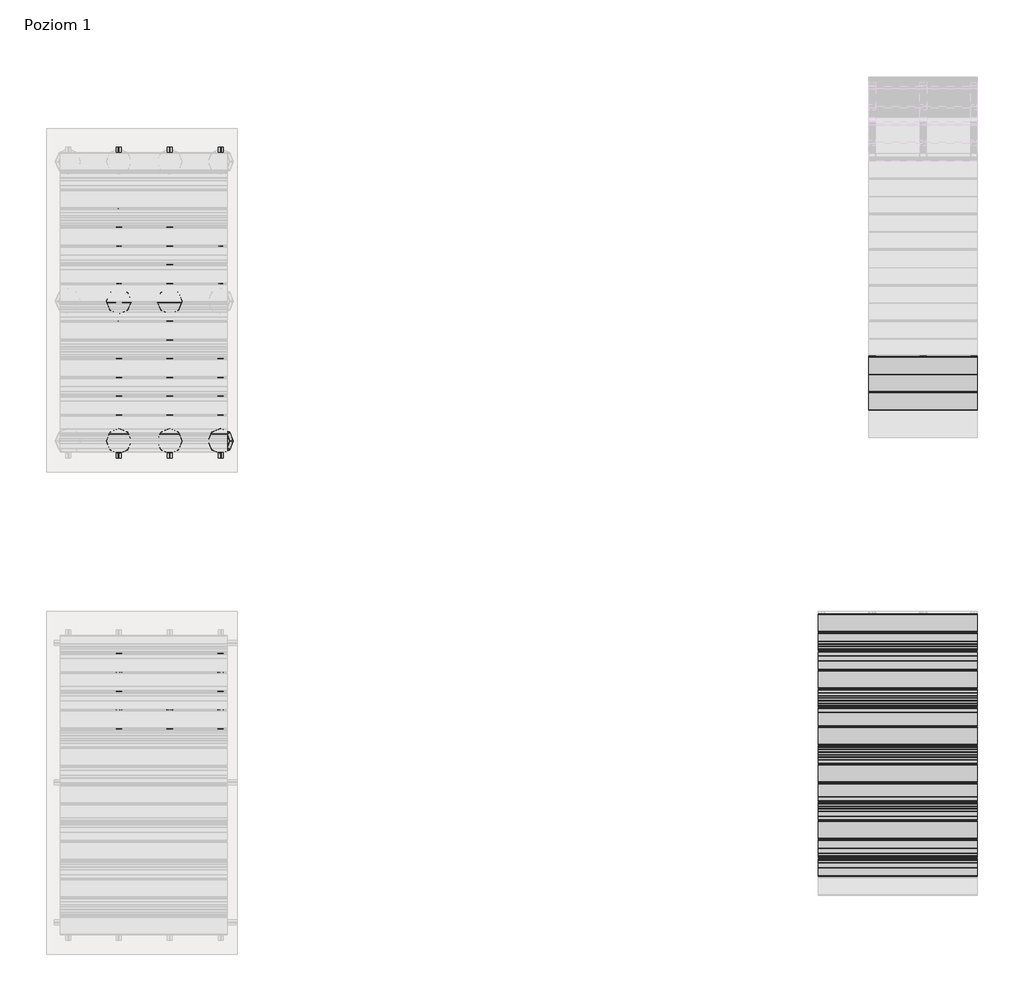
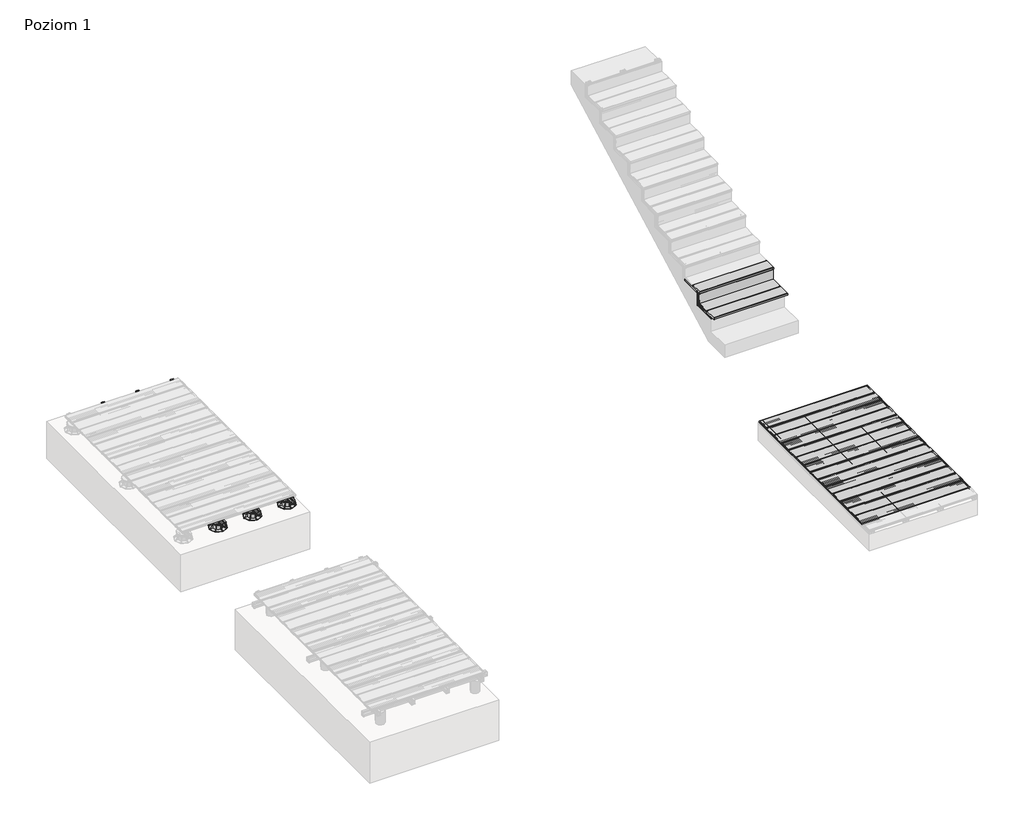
# One storey, part 2 of 3: 130 proxies.
"""IFC4 building model written with IfcOpenShell, lengths in millimetres."""

from ifc_helpers import new_model, si_unit, origin, place, context, project, spatial, transform, mapped, element, save
from components import generic_models_f2eebd4b, generic_models_ad5caf77, generic_models_7d2dd9e2, generic_models_c380d8c5, generic_models_15976a7a, deska_ld14022_75c34203, deska_ld14022_deska_ld14022_10748b43, deska_ld14022_deska_ld14022_7ee519a8, deska_ld14022s_deska_ld14022s_40a74b43

model = new_model("IFC4")

# Units and contexts
model_context = context("Model", 3, world=origin())
ifc_project = project(units=[si_unit("LENGTHUNIT", "METRE", prefix="MILLI")], contexts=[model_context])

# Site, building, storey
site = spatial("IfcSite", under=ifc_project)
building = spatial("IfcBuilding", under=site)
storey = spatial("IfcBuildingStorey", under=building, Name="Poziom 1", Elevation=0.0)

# Proxies
placement = place(None, origin())
generic_models_shape = generic_models_f2eebd4b(model_context)
element("IfcBuildingElementProxy", 1, Name="Klips montażowy : Klips montażowy", ObjectType="Klips montażowy : Klips montażowy", at=placement, inside=storey, context=model_context, shape_type="MappedRepresentation", body=[
    mapped(generic_models_shape, transform((6564.4622151, -11830.4084894, 0.0), x_axis=(1.0, 0.0, 0.0), y_axis=(0.0, 1.0, 0.0), z_axis=(0.0, 0.0, 1.0))),
])
element("IfcBuildingElementProxy", 2, Name="Klips montażowy : Klips montażowy", ObjectType="Klips montażowy : Klips montażowy", at=placement, inside=storey, context=model_context, shape_type="MappedRepresentation", body=[
    mapped(generic_models_shape, transform((6564.4622151, -11978.5035336, 0.0), x_axis=(1.0, 0.0, 0.0), y_axis=(0.0, 1.0, 0.0), z_axis=(0.0, 0.0, 1.0))),
])
element("IfcBuildingElementProxy", 3, Name="Klips montażowy : Klips montażowy", ObjectType="Klips montażowy : Klips montażowy", at=placement, inside=storey, context=model_context, shape_type="MappedRepresentation", body=[
    mapped(generic_models_shape, transform((6968.640944, -10201.1205148, 26.9981097), x_axis=(1.0, 0.0, 0.0), y_axis=(0.0, 1.0, 0.0), z_axis=(0.0, 0.0, 1.0))),
])
element("IfcBuildingElementProxy", 4, Name="Klips montażowy : Klips montażowy", ObjectType="Klips montażowy : Klips montażowy", at=placement, inside=storey, context=model_context, shape_type="MappedRepresentation", body=[
    mapped(generic_models_shape, transform((6968.640944, -10349.8705148, 26.9981097), x_axis=(1.0, 0.0, 0.0), y_axis=(0.0, 1.0, 0.0), z_axis=(0.0, 0.0, 1.0))),
])
element("IfcBuildingElementProxy", 5, Name="Klips montażowy : Klips montażowy", ObjectType="Klips montażowy : Klips montażowy", at=placement, inside=storey, context=model_context, shape_type="MappedRepresentation", body=[
    mapped(generic_models_shape, transform((6968.640944, -10497.9655589, 26.9981097), x_axis=(1.0, 0.0, 0.0), y_axis=(0.0, 1.0, 0.0), z_axis=(0.0, 0.0, 1.0))),
])
element("IfcBuildingElementProxy", 6, Name="Klips montażowy : Klips montażowy", ObjectType="Klips montażowy : Klips montażowy", at=placement, inside=storey, context=model_context, shape_type="MappedRepresentation", body=[
    mapped(generic_models_shape, transform((6968.640944, -10646.0606031, 26.9981097), x_axis=(1.0, 0.0, 0.0), y_axis=(0.0, 1.0, 0.0), z_axis=(0.0, 0.0, 1.0))),
])
element("IfcBuildingElementProxy", 7, Name="Klips montażowy : Klips montażowy", ObjectType="Klips montażowy : Klips montażowy", at=placement, inside=storey, context=model_context, shape_type="MappedRepresentation", body=[
    mapped(generic_models_shape, transform((6968.640944, -10794.1556473, 26.9981097), x_axis=(1.0, 0.0, 0.0), y_axis=(0.0, 1.0, 0.0), z_axis=(0.0, 0.0, 1.0))),
])
element("IfcBuildingElementProxy", 8, Name="Klips montażowy : Klips montażowy", ObjectType="Klips montażowy : Klips montażowy", at=placement, inside=storey, context=model_context, shape_type="MappedRepresentation", body=[
    mapped(generic_models_shape, transform((6968.640944, -10942.2506914, 26.9981097), x_axis=(1.0, 0.0, 0.0), y_axis=(0.0, 1.0, 0.0), z_axis=(0.0, 0.0, 1.0))),
])
element("IfcBuildingElementProxy", 9, Name="Klips montażowy : Klips montażowy", ObjectType="Klips montażowy : Klips montażowy", at=placement, inside=storey, context=model_context, shape_type="MappedRepresentation", body=[
    mapped(generic_models_shape, transform((6968.640944, -11090.3457356, 26.9981097), x_axis=(1.0, 0.0, 0.0), y_axis=(0.0, 1.0, 0.0), z_axis=(0.0, 0.0, 1.0))),
])
element("IfcBuildingElementProxy", 10, Name="Klips montażowy : Klips montażowy", ObjectType="Klips montażowy : Klips montażowy", at=placement, inside=storey, context=model_context, shape_type="MappedRepresentation", body=[
    mapped(generic_models_shape, transform((6968.640944, -11238.4407798, 26.9981097), x_axis=(1.0, 0.0, 0.0), y_axis=(0.0, 1.0, 0.0), z_axis=(0.0, 0.0, 1.0))),
])
element("IfcBuildingElementProxy", 11, Name="Klips montażowy : Klips montażowy", ObjectType="Klips montażowy : Klips montażowy", at=placement, inside=storey, context=model_context, shape_type="MappedRepresentation", body=[
    mapped(generic_models_shape, transform((6968.640944, -11386.535824, 26.9981097), x_axis=(1.0, 0.0, 0.0), y_axis=(0.0, 1.0, 0.0), z_axis=(0.0, 0.0, 1.0))),
])
element("IfcBuildingElementProxy", 12, Name="Klips montażowy : Klips montażowy", ObjectType="Klips montażowy : Klips montażowy", at=placement, inside=storey, context=model_context, shape_type="MappedRepresentation", body=[
    mapped(generic_models_shape, transform((6968.640944, -11534.6308681, 26.9981097), x_axis=(1.0, 0.0, 0.0), y_axis=(0.0, 1.0, 0.0), z_axis=(0.0, 0.0, 1.0))),
])
element("IfcBuildingElementProxy", 13, Name="Klips montażowy : Klips montażowy", ObjectType="Klips montażowy : Klips montażowy", at=placement, inside=storey, context=model_context, shape_type="MappedRepresentation", body=[
    mapped(generic_models_shape, transform((6968.640944, -11682.7259123, 26.9981097), x_axis=(1.0, 0.0, 0.0), y_axis=(0.0, 1.0, 0.0), z_axis=(0.0, 0.0, 1.0))),
])
element("IfcBuildingElementProxy", 14, Name="Klips montażowy : Klips montażowy", ObjectType="Klips montażowy : Klips montażowy", at=placement, inside=storey, context=model_context, shape_type="MappedRepresentation", body=[
    mapped(generic_models_shape, transform((6968.640944, -11830.8209565, 26.9981097), x_axis=(1.0, 0.0, 0.0), y_axis=(0.0, 1.0, 0.0), z_axis=(0.0, 0.0, 1.0))),
])
element("IfcBuildingElementProxy", 15, Name="Klips montażowy : Klips montażowy", ObjectType="Klips montażowy : Klips montażowy", at=placement, inside=storey, context=model_context, shape_type="MappedRepresentation", body=[
    mapped(generic_models_shape, transform((6968.640944, -11978.9160006, 26.9981097), x_axis=(1.0, 0.0, 0.0), y_axis=(0.0, 1.0, 0.0), z_axis=(0.0, 0.0, 1.0))),
])
element("IfcBuildingElementProxy", 16, Name="Klips montażowy : Klips montażowy", ObjectType="Klips montażowy : Klips montażowy", at=placement, inside=storey, context=model_context, shape_type="MappedRepresentation", body=[
    mapped(generic_models_shape, transform((6568.640944, -10201.1205148, 26.9981097), x_axis=(1.0, 0.0, 0.0), y_axis=(0.0, 1.0, 0.0), z_axis=(0.0, 0.0, 1.0))),
])
element("IfcBuildingElementProxy", 17, Name="Klips montażowy : Klips montażowy", ObjectType="Klips montażowy : Klips montażowy", at=placement, inside=storey, context=model_context, shape_type="MappedRepresentation", body=[
    mapped(generic_models_shape, transform((6568.640944, -10349.8705148, 26.9981097), x_axis=(1.0, 0.0, 0.0), y_axis=(0.0, 1.0, 0.0), z_axis=(0.0, 0.0, 1.0))),
])
element("IfcBuildingElementProxy", 18, Name="Klips montażowy : Klips montażowy", ObjectType="Klips montażowy : Klips montażowy", at=placement, inside=storey, context=model_context, shape_type="MappedRepresentation", body=[
    mapped(generic_models_shape, transform((6568.640944, -10497.9655589, 26.9981097), x_axis=(1.0, 0.0, 0.0), y_axis=(0.0, 1.0, 0.0), z_axis=(0.0, 0.0, 1.0))),
])
element("IfcBuildingElementProxy", 19, Name="Klips montażowy : Klips montażowy", ObjectType="Klips montażowy : Klips montażowy", at=placement, inside=storey, context=model_context, shape_type="MappedRepresentation", body=[
    mapped(generic_models_shape, transform((6568.640944, -10646.0606031, 26.9981097), x_axis=(1.0, 0.0, 0.0), y_axis=(0.0, 1.0, 0.0), z_axis=(0.0, 0.0, 1.0))),
])
element("IfcBuildingElementProxy", 20, Name="Klips montażowy : Klips montażowy", ObjectType="Klips montażowy : Klips montażowy", at=placement, inside=storey, context=model_context, shape_type="MappedRepresentation", body=[
    mapped(generic_models_shape, transform((6568.640944, -10794.1556473, 26.9981097), x_axis=(1.0, 0.0, 0.0), y_axis=(0.0, 1.0, 0.0), z_axis=(0.0, 0.0, 1.0))),
])
element("IfcBuildingElementProxy", 21, Name="Klips montażowy : Klips montażowy", ObjectType="Klips montażowy : Klips montażowy", at=placement, inside=storey, context=model_context, shape_type="MappedRepresentation", body=[
    mapped(generic_models_shape, transform((6568.640944, -10942.2506914, 26.9981097), x_axis=(1.0, 0.0, 0.0), y_axis=(0.0, 1.0, 0.0), z_axis=(0.0, 0.0, 1.0))),
])
element("IfcBuildingElementProxy", 22, Name="Klips montażowy : Klips montażowy", ObjectType="Klips montażowy : Klips montażowy", at=placement, inside=storey, context=model_context, shape_type="MappedRepresentation", body=[
    mapped(generic_models_shape, transform((6568.640944, -11090.3457356, 26.9981097), x_axis=(1.0, 0.0, 0.0), y_axis=(0.0, 1.0, 0.0), z_axis=(0.0, 0.0, 1.0))),
])
element("IfcBuildingElementProxy", 23, Name="Klips montażowy : Klips montażowy", ObjectType="Klips montażowy : Klips montażowy", at=placement, inside=storey, context=model_context, shape_type="MappedRepresentation", body=[
    mapped(generic_models_shape, transform((6568.640944, -11238.4407798, 26.9981097), x_axis=(1.0, 0.0, 0.0), y_axis=(0.0, 1.0, 0.0), z_axis=(0.0, 0.0, 1.0))),
])
element("IfcBuildingElementProxy", 24, Name="Klips montażowy : Klips montażowy", ObjectType="Klips montażowy : Klips montażowy", at=placement, inside=storey, context=model_context, shape_type="MappedRepresentation", body=[
    mapped(generic_models_shape, transform((6568.640944, -11386.535824, 26.9981097), x_axis=(1.0, 0.0, 0.0), y_axis=(0.0, 1.0, 0.0), z_axis=(0.0, 0.0, 1.0))),
])
element("IfcBuildingElementProxy", 25, Name="Klips montażowy : Klips montażowy", ObjectType="Klips montażowy : Klips montażowy", at=placement, inside=storey, context=model_context, shape_type="MappedRepresentation", body=[
    mapped(generic_models_shape, transform((6568.640944, -11534.6308681, 26.9981097), x_axis=(1.0, 0.0, 0.0), y_axis=(0.0, 1.0, 0.0), z_axis=(0.0, 0.0, 1.0))),
])
element("IfcBuildingElementProxy", 26, Name="Klips montażowy : Klips montażowy", ObjectType="Klips montażowy : Klips montażowy", at=placement, inside=storey, context=model_context, shape_type="MappedRepresentation", body=[
    mapped(generic_models_shape, transform((6568.640944, -11682.7259123, 26.9981097), x_axis=(1.0, 0.0, 0.0), y_axis=(0.0, 1.0, 0.0), z_axis=(0.0, 0.0, 1.0))),
])
element("IfcBuildingElementProxy", 27, Name="Klips montażowy : Klips montażowy", ObjectType="Klips montażowy : Klips montażowy", at=placement, inside=storey, context=model_context, shape_type="MappedRepresentation", body=[
    mapped(generic_models_shape, transform((6568.640944, -11830.8209565, 26.9981097), x_axis=(1.0, 0.0, 0.0), y_axis=(0.0, 1.0, 0.0), z_axis=(0.0, 0.0, 1.0))),
])
element("IfcBuildingElementProxy", 28, Name="Klips montażowy : Klips montażowy", ObjectType="Klips montażowy : Klips montażowy", at=placement, inside=storey, context=model_context, shape_type="MappedRepresentation", body=[
    mapped(generic_models_shape, transform((6568.640944, -11978.9160006, 26.9981097), x_axis=(1.0, 0.0, 0.0), y_axis=(0.0, 1.0, 0.0), z_axis=(0.0, 0.0, 1.0))),
])
element("IfcBuildingElementProxy", 29, Name="Klips montażowy : Klips montażowy", ObjectType="Klips montażowy : Klips montażowy", at=placement, inside=storey, context=model_context, shape_type="MappedRepresentation", body=[
    mapped(generic_models_shape, transform((6168.640944, -10201.1205148, 26.9981097), x_axis=(1.0, 0.0, 0.0), y_axis=(0.0, 1.0, 0.0), z_axis=(0.0, 0.0, 1.0))),
])
element("IfcBuildingElementProxy", 30, Name="Klips montażowy : Klips montażowy", ObjectType="Klips montażowy : Klips montażowy", at=placement, inside=storey, context=model_context, shape_type="MappedRepresentation", body=[
    mapped(generic_models_shape, transform((6168.640944, -10349.8705148, 26.9981097), x_axis=(1.0, 0.0, 0.0), y_axis=(0.0, 1.0, 0.0), z_axis=(0.0, 0.0, 1.0))),
])
element("IfcBuildingElementProxy", 31, Name="Klips montażowy : Klips montażowy", ObjectType="Klips montażowy : Klips montażowy", at=placement, inside=storey, context=model_context, shape_type="MappedRepresentation", body=[
    mapped(generic_models_shape, transform((6168.640944, -10497.9655589, 26.9981097), x_axis=(1.0, 0.0, 0.0), y_axis=(0.0, 1.0, 0.0), z_axis=(0.0, 0.0, 1.0))),
])
element("IfcBuildingElementProxy", 32, Name="Klips montażowy : Klips montażowy", ObjectType="Klips montażowy : Klips montażowy", at=placement, inside=storey, context=model_context, shape_type="MappedRepresentation", body=[
    mapped(generic_models_shape, transform((6168.640944, -10646.0606031, 26.9981097), x_axis=(1.0, 0.0, 0.0), y_axis=(0.0, 1.0, 0.0), z_axis=(0.0, 0.0, 1.0))),
])
element("IfcBuildingElementProxy", 33, Name="Klips montażowy : Klips montażowy", ObjectType="Klips montażowy : Klips montażowy", at=placement, inside=storey, context=model_context, shape_type="MappedRepresentation", body=[
    mapped(generic_models_shape, transform((6168.640944, -10794.1556473, 26.9981097), x_axis=(1.0, 0.0, 0.0), y_axis=(0.0, 1.0, 0.0), z_axis=(0.0, 0.0, 1.0))),
])
element("IfcBuildingElementProxy", 34, Name="Klips montażowy : Klips montażowy", ObjectType="Klips montażowy : Klips montażowy", at=placement, inside=storey, context=model_context, shape_type="MappedRepresentation", body=[
    mapped(generic_models_shape, transform((6168.640944, -10942.2506914, 26.9981097), x_axis=(1.0, 0.0, 0.0), y_axis=(0.0, 1.0, 0.0), z_axis=(0.0, 0.0, 1.0))),
])
element("IfcBuildingElementProxy", 35, Name="Klips montażowy : Klips montażowy", ObjectType="Klips montażowy : Klips montażowy", at=placement, inside=storey, context=model_context, shape_type="MappedRepresentation", body=[
    mapped(generic_models_shape, transform((6168.640944, -11090.3457356, 26.9981097), x_axis=(1.0, 0.0, 0.0), y_axis=(0.0, 1.0, 0.0), z_axis=(0.0, 0.0, 1.0))),
])
element("IfcBuildingElementProxy", 36, Name="Klips montażowy : Klips montażowy", ObjectType="Klips montażowy : Klips montażowy", at=placement, inside=storey, context=model_context, shape_type="MappedRepresentation", body=[
    mapped(generic_models_shape, transform((6168.640944, -11238.4407798, 26.9981097), x_axis=(1.0, 0.0, 0.0), y_axis=(0.0, 1.0, 0.0), z_axis=(0.0, 0.0, 1.0))),
])
element("IfcBuildingElementProxy", 37, Name="Klips montażowy : Klips montażowy", ObjectType="Klips montażowy : Klips montażowy", at=placement, inside=storey, context=model_context, shape_type="MappedRepresentation", body=[
    mapped(generic_models_shape, transform((6168.640944, -11386.535824, 26.9981097), x_axis=(1.0, 0.0, 0.0), y_axis=(0.0, 1.0, 0.0), z_axis=(0.0, 0.0, 1.0))),
])
element("IfcBuildingElementProxy", 38, Name="Klips montażowy : Klips montażowy", ObjectType="Klips montażowy : Klips montażowy", at=placement, inside=storey, context=model_context, shape_type="MappedRepresentation", body=[
    mapped(generic_models_shape, transform((6168.640944, -11534.6308681, 26.9981097), x_axis=(1.0, 0.0, 0.0), y_axis=(0.0, 1.0, 0.0), z_axis=(0.0, 0.0, 1.0))),
])
element("IfcBuildingElementProxy", 39, Name="Klips montażowy : Klips montażowy", ObjectType="Klips montażowy : Klips montażowy", at=placement, inside=storey, context=model_context, shape_type="MappedRepresentation", body=[
    mapped(generic_models_shape, transform((6168.640944, -11682.7259123, 26.9981097), x_axis=(1.0, 0.0, 0.0), y_axis=(0.0, 1.0, 0.0), z_axis=(0.0, 0.0, 1.0))),
])
element("IfcBuildingElementProxy", 40, Name="Klips montażowy : Klips montażowy", ObjectType="Klips montażowy : Klips montażowy", at=placement, inside=storey, context=model_context, shape_type="MappedRepresentation", body=[
    mapped(generic_models_shape, transform((6168.640944, -11830.8209565, 26.9981097), x_axis=(1.0, 0.0, 0.0), y_axis=(0.0, 1.0, 0.0), z_axis=(0.0, 0.0, 1.0))),
])
element("IfcBuildingElementProxy", 41, Name="Klips montażowy : Klips montażowy", ObjectType="Klips montażowy : Klips montażowy", at=placement, inside=storey, context=model_context, shape_type="MappedRepresentation", body=[
    mapped(generic_models_shape, transform((6168.640944, -11978.9160006, 26.9981097), x_axis=(1.0, 0.0, 0.0), y_axis=(0.0, 1.0, 0.0), z_axis=(0.0, 0.0, 1.0))),
])
element("IfcBuildingElementProxy", 42, Name="Klips montażowy : Klips montażowy", ObjectType="Klips montażowy : Klips montażowy", at=placement, inside=storey, context=model_context, shape_type="MappedRepresentation", body=[
    mapped(generic_models_shape, transform((5768.640944, -10201.1205148, 26.9981097), x_axis=(1.0, 0.0, 0.0), y_axis=(0.0, 1.0, 0.0), z_axis=(0.0, 0.0, 1.0))),
])
element("IfcBuildingElementProxy", 43, Name="Klips montażowy : Klips montażowy", ObjectType="Klips montażowy : Klips montażowy", at=placement, inside=storey, context=model_context, shape_type="MappedRepresentation", body=[
    mapped(generic_models_shape, transform((5768.640944, -10349.8705148, 26.9981097), x_axis=(1.0, 0.0, 0.0), y_axis=(0.0, 1.0, 0.0), z_axis=(0.0, 0.0, 1.0))),
])
element("IfcBuildingElementProxy", 44, Name="Klips montażowy : Klips montażowy", ObjectType="Klips montażowy : Klips montażowy", at=placement, inside=storey, context=model_context, shape_type="MappedRepresentation", body=[
    mapped(generic_models_shape, transform((5768.640944, -10497.9655589, 26.9981097), x_axis=(1.0, 0.0, 0.0), y_axis=(0.0, 1.0, 0.0), z_axis=(0.0, 0.0, 1.0))),
])
element("IfcBuildingElementProxy", 45, Name="Klips montażowy : Klips montażowy", ObjectType="Klips montażowy : Klips montażowy", at=placement, inside=storey, context=model_context, shape_type="MappedRepresentation", body=[
    mapped(generic_models_shape, transform((5768.640944, -10646.0606031, 26.9981097), x_axis=(1.0, 0.0, 0.0), y_axis=(0.0, 1.0, 0.0), z_axis=(0.0, 0.0, 1.0))),
])
element("IfcBuildingElementProxy", 46, Name="Klips montażowy : Klips montażowy", ObjectType="Klips montażowy : Klips montażowy", at=placement, inside=storey, context=model_context, shape_type="MappedRepresentation", body=[
    mapped(generic_models_shape, transform((5768.640944, -10794.1556473, 26.9981097), x_axis=(1.0, 0.0, 0.0), y_axis=(0.0, 1.0, 0.0), z_axis=(0.0, 0.0, 1.0))),
])
element("IfcBuildingElementProxy", 47, Name="Klips montażowy : Klips montażowy", ObjectType="Klips montażowy : Klips montażowy", at=placement, inside=storey, context=model_context, shape_type="MappedRepresentation", body=[
    mapped(generic_models_shape, transform((5768.640944, -10942.2506914, 26.9981097), x_axis=(1.0, 0.0, 0.0), y_axis=(0.0, 1.0, 0.0), z_axis=(0.0, 0.0, 1.0))),
])
element("IfcBuildingElementProxy", 48, Name="Klips montażowy : Klips montażowy", ObjectType="Klips montażowy : Klips montażowy", at=placement, inside=storey, context=model_context, shape_type="MappedRepresentation", body=[
    mapped(generic_models_shape, transform((5768.640944, -11090.3457356, 26.9981097), x_axis=(1.0, 0.0, 0.0), y_axis=(0.0, 1.0, 0.0), z_axis=(0.0, 0.0, 1.0))),
])
element("IfcBuildingElementProxy", 49, Name="Klips montażowy : Klips montażowy", ObjectType="Klips montażowy : Klips montażowy", at=placement, inside=storey, context=model_context, shape_type="MappedRepresentation", body=[
    mapped(generic_models_shape, transform((5768.640944, -11238.4407798, 26.9981097), x_axis=(1.0, 0.0, 0.0), y_axis=(0.0, 1.0, 0.0), z_axis=(0.0, 0.0, 1.0))),
])
element("IfcBuildingElementProxy", 50, Name="Klips montażowy : Klips montażowy", ObjectType="Klips montażowy : Klips montażowy", at=placement, inside=storey, context=model_context, shape_type="MappedRepresentation", body=[
    mapped(generic_models_shape, transform((5768.640944, -11386.535824, 26.9981097), x_axis=(1.0, 0.0, 0.0), y_axis=(0.0, 1.0, 0.0), z_axis=(0.0, 0.0, 1.0))),
])
element("IfcBuildingElementProxy", 51, Name="Klips montażowy : Klips montażowy", ObjectType="Klips montażowy : Klips montażowy", at=placement, inside=storey, context=model_context, shape_type="MappedRepresentation", body=[
    mapped(generic_models_shape, transform((5768.640944, -11534.6308681, 26.9981097), x_axis=(1.0, 0.0, 0.0), y_axis=(0.0, 1.0, 0.0), z_axis=(0.0, 0.0, 1.0))),
])
element("IfcBuildingElementProxy", 52, Name="Klips montażowy : Klips montażowy", ObjectType="Klips montażowy : Klips montażowy", at=placement, inside=storey, context=model_context, shape_type="MappedRepresentation", body=[
    mapped(generic_models_shape, transform((5768.640944, -11682.7259123, 26.9981097), x_axis=(1.0, 0.0, 0.0), y_axis=(0.0, 1.0, 0.0), z_axis=(0.0, 0.0, 1.0))),
])
element("IfcBuildingElementProxy", 53, Name="Klips montażowy : Klips montażowy", ObjectType="Klips montażowy : Klips montażowy", at=placement, inside=storey, context=model_context, shape_type="MappedRepresentation", body=[
    mapped(generic_models_shape, transform((5768.640944, -11830.8209565, 26.9981097), x_axis=(1.0, 0.0, 0.0), y_axis=(0.0, 1.0, 0.0), z_axis=(0.0, 0.0, 1.0))),
])
element("IfcBuildingElementProxy", 54, Name="Klips montażowy : Klips montażowy", ObjectType="Klips montażowy : Klips montażowy", at=placement, inside=storey, context=model_context, shape_type="MappedRepresentation", body=[
    mapped(generic_models_shape, transform((5768.640944, -11978.9160006, 26.9981097), x_axis=(1.0, 0.0, 0.0), y_axis=(0.0, 1.0, 0.0), z_axis=(0.0, 0.0, 1.0))),
])
element("IfcBuildingElementProxy", 55, Name="Klips montażowy : Klips montażowy", ObjectType="Klips montażowy : Klips montażowy", at=placement, inside=storey, context=model_context, shape_type="MappedRepresentation", body=[
    mapped(generic_models_shape, transform((1040.3000551, -10369.0163547, 100.0796601), x_axis=(1.0, 0.0, 0.0), y_axis=(0.0, 1.0, 0.0), z_axis=(0.0, 0.0, 1.0))),
])
element("IfcBuildingElementProxy", 56, Name="Klips montażowy : Klips montażowy", ObjectType="Klips montażowy : Klips montażowy", at=placement, inside=storey, context=model_context, shape_type="MappedRepresentation", body=[
    mapped(generic_models_shape, transform((1040.3000551, -10516.8311952, 100.0796601), x_axis=(1.0, 0.0, 0.0), y_axis=(0.0, 1.0, 0.0), z_axis=(0.0, 0.0, 1.0))),
])
element("IfcBuildingElementProxy", 57, Name="Klips montażowy : Klips montażowy", ObjectType="Klips montażowy : Klips montażowy", at=placement, inside=storey, context=model_context, shape_type="MappedRepresentation", body=[
    mapped(generic_models_shape, transform((1040.3000551, -10664.6460356, 100.0796601), x_axis=(1.0, 0.0, 0.0), y_axis=(0.0, 1.0, 0.0), z_axis=(0.0, 0.0, 1.0))),
])
element("IfcBuildingElementProxy", 58, Name="Klips montażowy : Klips montażowy", ObjectType="Klips montażowy : Klips montażowy", at=placement, inside=storey, context=model_context, shape_type="MappedRepresentation", body=[
    mapped(generic_models_shape, transform((1040.3000551, -10812.460876, 100.0796601), x_axis=(1.0, 0.0, 0.0), y_axis=(0.0, 1.0, 0.0), z_axis=(0.0, 0.0, 1.0))),
])
element("IfcBuildingElementProxy", 59, Name="Klips montażowy : Klips montażowy", ObjectType="Klips montażowy : Klips montażowy", at=placement, inside=storey, context=model_context, shape_type="MappedRepresentation", body=[
    mapped(generic_models_shape, transform((1040.3000551, -10960.2757164, 100.0796601), x_axis=(1.0, 0.0, 0.0), y_axis=(0.0, 1.0, 0.0), z_axis=(0.0, 0.0, 1.0))),
])
element("IfcBuildingElementProxy", 60, Name="Klips montażowy : Klips montażowy", ObjectType="Klips montażowy : Klips montażowy", at=placement, inside=storey, context=model_context, shape_type="MappedRepresentation", body=[
    mapped(generic_models_shape, transform((640.3000551, -10812.460876, 100.0796601), x_axis=(1.0, 0.0, 0.0), y_axis=(0.0, 1.0, 0.0), z_axis=(0.0, 0.0, 1.0))),
])
element("IfcBuildingElementProxy", 61, Name="Klips montażowy : Klips montażowy", ObjectType="Klips montażowy : Klips montażowy", at=placement, inside=storey, context=model_context, shape_type="MappedRepresentation", body=[
    mapped(generic_models_shape, transform((640.3000551, -10960.2757164, 100.0796601), x_axis=(1.0, 0.0, 0.0), y_axis=(0.0, 1.0, 0.0), z_axis=(0.0, 0.0, 1.0))),
])
element("IfcBuildingElementProxy", 62, Name="Klips montażowy : Klips montażowy", ObjectType="Klips montażowy : Klips montażowy", at=placement, inside=storey, context=model_context, shape_type="MappedRepresentation", body=[
    mapped(generic_models_shape, transform((240.2735017, -10369.0163547, 100.0796601), x_axis=(1.0, 0.0, 0.0), y_axis=(0.0, 1.0, 0.0), z_axis=(0.0, 0.0, 1.0))),
])
element("IfcBuildingElementProxy", 63, Name="Klips montażowy : Klips montażowy", ObjectType="Klips montażowy : Klips montażowy", at=placement, inside=storey, context=model_context, shape_type="MappedRepresentation", body=[
    mapped(generic_models_shape, transform((240.2735017, -10516.8311952, 100.0796601), x_axis=(1.0, 0.0, 0.0), y_axis=(0.0, 1.0, 0.0), z_axis=(0.0, 0.0, 1.0))),
])
element("IfcBuildingElementProxy", 64, Name="Klips montażowy : Klips montażowy", ObjectType="Klips montażowy : Klips montażowy", at=placement, inside=storey, context=model_context, shape_type="MappedRepresentation", body=[
    mapped(generic_models_shape, transform((240.2735017, -10664.6460356, 100.0796601), x_axis=(1.0, 0.0, 0.0), y_axis=(0.0, 1.0, 0.0), z_axis=(0.0, 0.0, 1.0))),
])
element("IfcBuildingElementProxy", 65, Name="Klips montażowy : Klips montażowy", ObjectType="Klips montażowy : Klips montażowy", at=placement, inside=storey, context=model_context, shape_type="MappedRepresentation", body=[
    mapped(generic_models_shape, transform((240.2735017, -10812.460876, 100.0796601), x_axis=(1.0, 0.0, 0.0), y_axis=(0.0, 1.0, 0.0), z_axis=(0.0, 0.0, 1.0))),
])
element("IfcBuildingElementProxy", 66, Name="Klips montażowy : Klips montażowy", ObjectType="Klips montażowy : Klips montażowy", at=placement, inside=storey, context=model_context, shape_type="MappedRepresentation", body=[
    mapped(generic_models_shape, transform((240.2735017, -10960.2757164, 100.0796601), x_axis=(1.0, 0.0, 0.0), y_axis=(0.0, 1.0, 0.0), z_axis=(0.0, 0.0, 1.0))),
])
element("IfcBuildingElementProxy", 67, Name="Klips montażowy : Klips montażowy", ObjectType="Klips montażowy : Klips montażowy", at=placement, inside=storey, context=model_context, shape_type="MappedRepresentation", body=[
    mapped(generic_models_shape, transform((1040.3000551, -8047.1647588, -19.9602499), x_axis=(1.0, 0.0, 0.0), y_axis=(0.0, 1.0, 0.0), z_axis=(0.0, 0.0, 1.0))),
])
element("IfcBuildingElementProxy", 68, Name="Klips montażowy : Klips montażowy", ObjectType="Klips montażowy : Klips montażowy", at=placement, inside=storey, context=model_context, shape_type="MappedRepresentation", body=[
    mapped(generic_models_shape, transform((1040.3000551, -8194.9795992, -19.9602499), x_axis=(1.0, 0.0, 0.0), y_axis=(0.0, 1.0, 0.0), z_axis=(0.0, 0.0, 1.0))),
])
element("IfcBuildingElementProxy", 69, Name="Klips montażowy : Klips montażowy", ObjectType="Klips montażowy : Klips montażowy", at=placement, inside=storey, context=model_context, shape_type="MappedRepresentation", body=[
    mapped(generic_models_shape, transform((1040.3000551, -8342.7944396, -19.9602499), x_axis=(1.0, 0.0, 0.0), y_axis=(0.0, 1.0, 0.0), z_axis=(0.0, 0.0, 1.0))),
])
element("IfcBuildingElementProxy", 70, Name="Klips montażowy : Klips montażowy", ObjectType="Klips montażowy : Klips montażowy", at=placement, inside=storey, context=model_context, shape_type="MappedRepresentation", body=[
    mapped(generic_models_shape, transform((1040.3000551, -8490.60928, -19.9602499), x_axis=(1.0, 0.0, 0.0), y_axis=(0.0, 1.0, 0.0), z_axis=(0.0, 0.0, 1.0))),
])
element("IfcBuildingElementProxy", 71, Name="Klips montażowy : Klips montażowy", ObjectType="Klips montażowy : Klips montażowy", at=placement, inside=storey, context=model_context, shape_type="MappedRepresentation", body=[
    mapped(generic_models_shape, transform((1040.3000551, -8638.4241205, -19.9602499), x_axis=(1.0, 0.0, 0.0), y_axis=(0.0, 1.0, 0.0), z_axis=(0.0, 0.0, 1.0))),
])
element("IfcBuildingElementProxy", 72, Name="Klips montażowy : Klips montażowy", ObjectType="Klips montażowy : Klips montażowy", at=placement, inside=storey, context=model_context, shape_type="MappedRepresentation", body=[
    mapped(generic_models_shape, transform((640.3000551, -7012.460876, -19.9602499), x_axis=(1.0, 0.0, 0.0), y_axis=(0.0, 1.0, 0.0), z_axis=(0.0, 0.0, 1.0))),
])
element("IfcBuildingElementProxy", 73, Name="Klips montażowy : Klips montażowy", ObjectType="Klips montażowy : Klips montażowy", at=placement, inside=storey, context=model_context, shape_type="MappedRepresentation", body=[
    mapped(generic_models_shape, transform((640.3000551, -7160.2757164, -19.9602499), x_axis=(1.0, 0.0, 0.0), y_axis=(0.0, 1.0, 0.0), z_axis=(0.0, 0.0, 1.0))),
])
element("IfcBuildingElementProxy", 74, Name="Klips montażowy : Klips montażowy", ObjectType="Klips montażowy : Klips montażowy", at=placement, inside=storey, context=model_context, shape_type="MappedRepresentation", body=[
    mapped(generic_models_shape, transform((640.3000551, -7308.0905568, -19.9602499), x_axis=(1.0, 0.0, 0.0), y_axis=(0.0, 1.0, 0.0), z_axis=(0.0, 0.0, 1.0))),
])
element("IfcBuildingElementProxy", 75, Name="Klips montażowy : Klips montażowy", ObjectType="Klips montażowy : Klips montażowy", at=placement, inside=storey, context=model_context, shape_type="MappedRepresentation", body=[
    mapped(generic_models_shape, transform((640.3000551, -7455.9053972, -19.9602499), x_axis=(1.0, 0.0, 0.0), y_axis=(0.0, 1.0, 0.0), z_axis=(0.0, 0.0, 1.0))),
])
element("IfcBuildingElementProxy", 76, Name="Klips montażowy : Klips montażowy", ObjectType="Klips montażowy : Klips montażowy", at=placement, inside=storey, context=model_context, shape_type="MappedRepresentation", body=[
    mapped(generic_models_shape, transform((640.3000551, -7603.7202376, -19.9602499), x_axis=(1.0, 0.0, 0.0), y_axis=(0.0, 1.0, 0.0), z_axis=(0.0, 0.0, 1.0))),
])
element("IfcBuildingElementProxy", 77, Name="Klips montażowy : Klips montażowy", ObjectType="Klips montażowy : Klips montażowy", at=placement, inside=storey, context=model_context, shape_type="MappedRepresentation", body=[
    mapped(generic_models_shape, transform((640.3000551, -7751.535078, -19.9602499), x_axis=(1.0, 0.0, 0.0), y_axis=(0.0, 1.0, 0.0), z_axis=(0.0, 0.0, 1.0))),
])
element("IfcBuildingElementProxy", 78, Name="Klips montażowy : Klips montażowy", ObjectType="Klips montażowy : Klips montażowy", at=placement, inside=storey, context=model_context, shape_type="MappedRepresentation", body=[
    mapped(generic_models_shape, transform((640.3000551, -7899.3499184, -19.9602499), x_axis=(1.0, 0.0, 0.0), y_axis=(0.0, 1.0, 0.0), z_axis=(0.0, 0.0, 1.0))),
])
element("IfcBuildingElementProxy", 79, Name="Klips montażowy : Klips montażowy", ObjectType="Klips montażowy : Klips montażowy", at=placement, inside=storey, context=model_context, shape_type="MappedRepresentation", body=[
    mapped(generic_models_shape, transform((640.3000551, -8047.1647588, -19.9602499), x_axis=(1.0, 0.0, 0.0), y_axis=(0.0, 1.0, 0.0), z_axis=(0.0, 0.0, 1.0))),
])
element("IfcBuildingElementProxy", 80, Name="Klips montażowy : Klips montażowy", ObjectType="Klips montażowy : Klips montażowy", at=placement, inside=storey, context=model_context, shape_type="MappedRepresentation", body=[
    mapped(generic_models_shape, transform((640.3000551, -8194.9795992, -19.9602499), x_axis=(1.0, 0.0, 0.0), y_axis=(0.0, 1.0, 0.0), z_axis=(0.0, 0.0, 1.0))),
])
element("IfcBuildingElementProxy", 81, Name="Klips montażowy : Klips montażowy", ObjectType="Klips montażowy : Klips montażowy", at=placement, inside=storey, context=model_context, shape_type="MappedRepresentation", body=[
    mapped(generic_models_shape, transform((640.3000551, -8342.7944396, -19.9602499), x_axis=(1.0, 0.0, 0.0), y_axis=(0.0, 1.0, 0.0), z_axis=(0.0, 0.0, 1.0))),
])
element("IfcBuildingElementProxy", 82, Name="Klips montażowy : Klips montażowy", ObjectType="Klips montażowy : Klips montażowy", at=placement, inside=storey, context=model_context, shape_type="MappedRepresentation", body=[
    mapped(generic_models_shape, transform((640.3000551, -8490.60928, -19.9602499), x_axis=(1.0, 0.0, 0.0), y_axis=(0.0, 1.0, 0.0), z_axis=(0.0, 0.0, 1.0))),
])
element("IfcBuildingElementProxy", 83, Name="Klips montażowy : Klips montażowy", ObjectType="Klips montażowy : Klips montażowy", at=placement, inside=storey, context=model_context, shape_type="MappedRepresentation", body=[
    mapped(generic_models_shape, transform((640.3000551, -8638.4241205, -19.9602499), x_axis=(1.0, 0.0, 0.0), y_axis=(0.0, 1.0, 0.0), z_axis=(0.0, 0.0, 1.0))),
])
element("IfcBuildingElementProxy", 84, Name="Klips montażowy : Klips montażowy", ObjectType="Klips montażowy : Klips montażowy", at=placement, inside=storey, context=model_context, shape_type="MappedRepresentation", body=[
    mapped(generic_models_shape, transform((240.2735017, -7012.460876, -19.9602499), x_axis=(1.0, 0.0, 0.0), y_axis=(0.0, 1.0, 0.0), z_axis=(0.0, 0.0, 1.0))),
])
element("IfcBuildingElementProxy", 85, Name="Klips montażowy : Klips montażowy", ObjectType="Klips montażowy : Klips montażowy", at=placement, inside=storey, context=model_context, shape_type="MappedRepresentation", body=[
    mapped(generic_models_shape, transform((240.2735017, -8047.1647588, -19.9602499), x_axis=(1.0, 0.0, 0.0), y_axis=(0.0, 1.0, 0.0), z_axis=(0.0, 0.0, 1.0))),
])
element("IfcBuildingElementProxy", 86, Name="Klips montażowy : Klips montażowy", ObjectType="Klips montażowy : Klips montażowy", at=placement, inside=storey, context=model_context, shape_type="MappedRepresentation", body=[
    mapped(generic_models_shape, transform((240.2735017, -8194.9795992, -19.9602499), x_axis=(1.0, 0.0, 0.0), y_axis=(0.0, 1.0, 0.0), z_axis=(0.0, 0.0, 1.0))),
])
element("IfcBuildingElementProxy", 87, Name="Klips montażowy : Klips montażowy", ObjectType="Klips montażowy : Klips montażowy", at=placement, inside=storey, context=model_context, shape_type="MappedRepresentation", body=[
    mapped(generic_models_shape, transform((240.2735017, -8342.7944396, -19.9602499), x_axis=(1.0, 0.0, 0.0), y_axis=(0.0, 1.0, 0.0), z_axis=(0.0, 0.0, 1.0))),
])
element("IfcBuildingElementProxy", 88, Name="Klips montażowy : Klips montażowy", ObjectType="Klips montażowy : Klips montażowy", at=placement, inside=storey, context=model_context, shape_type="MappedRepresentation", body=[
    mapped(generic_models_shape, transform((240.2735017, -8490.60928, -19.9602499), x_axis=(1.0, 0.0, 0.0), y_axis=(0.0, 1.0, 0.0), z_axis=(0.0, 0.0, 1.0))),
])
element("IfcBuildingElementProxy", 89, Name="Klips montażowy : Klips montażowy", ObjectType="Klips montażowy : Klips montażowy", at=placement, inside=storey, context=model_context, shape_type="MappedRepresentation", body=[
    mapped(generic_models_shape, transform((240.2735017, -8638.4241205, -19.9602499), x_axis=(1.0, 0.0, 0.0), y_axis=(0.0, 1.0, 0.0), z_axis=(0.0, 0.0, 1.0))),
])
element("IfcBuildingElementProxy", 90, Name="Klips montażowy : Klips montażowy", ObjectType="Klips montażowy : Klips montażowy", at=placement, inside=storey, context=model_context, shape_type="MappedRepresentation", body=[
    mapped(generic_models_shape, transform((6968.9741398, -8026.9888182, 330.0), x_axis=(1.0, 0.0, 0.0), y_axis=(0.0, 1.0, 0.0), z_axis=(0.0, 0.0, 1.0))),
])
element("IfcBuildingElementProxy", 91, Name="Klips montażowy : Klips montażowy", ObjectType="Klips montażowy : Klips montażowy", at=placement, inside=storey, context=model_context, shape_type="MappedRepresentation", body=[
    mapped(generic_models_shape, transform((6968.9741398, -8306.9888182, 180.0), x_axis=(1.0, 0.0, 0.0), y_axis=(0.0, 1.0, 0.0), z_axis=(0.0, 0.0, 1.0))),
])
element("IfcBuildingElementProxy", 92, Name="Klips montażowy : Klips montażowy", ObjectType="Klips montażowy : Klips montażowy", at=placement, inside=storey, context=model_context, shape_type="MappedRepresentation", body=[
    mapped(generic_models_shape, transform((6568.9741398, -8026.9888182, 330.0), x_axis=(1.0, 0.0, 0.0), y_axis=(0.0, 1.0, 0.0), z_axis=(0.0, 0.0, 1.0))),
])
element("IfcBuildingElementProxy", 93, Name="Klips montażowy : Klips montażowy", ObjectType="Klips montażowy : Klips montażowy", at=placement, inside=storey, context=model_context, shape_type="MappedRepresentation", body=[
    mapped(generic_models_shape, transform((6568.9741398, -8306.9888182, 180.0), x_axis=(1.0, 0.0, 0.0), y_axis=(0.0, 1.0, 0.0), z_axis=(0.0, 0.0, 1.0))),
])
element("IfcBuildingElementProxy", 94, Name="Klips montażowy : Klips montażowy", ObjectType="Klips montażowy : Klips montażowy", at=placement, inside=storey, context=model_context, shape_type="MappedRepresentation", body=[
    mapped(generic_models_shape, transform((6168.9741398, -8026.9888182, 330.0), x_axis=(1.0, 0.0, 0.0), y_axis=(0.0, 1.0, 0.0), z_axis=(0.0, 0.0, 1.0))),
])
element("IfcBuildingElementProxy", 95, Name="Klips montażowy : Klips montażowy", ObjectType="Klips montażowy : Klips montażowy", at=placement, inside=storey, context=model_context, shape_type="MappedRepresentation", body=[
    mapped(generic_models_shape, transform((6168.9741398, -8306.9888182, 180.0), x_axis=(1.0, 0.0, 0.0), y_axis=(0.0, 1.0, 0.0), z_axis=(0.0, 0.0, 1.0))),
])
generic_models_2_shape = generic_models_ad5caf77(model_context)
element("IfcBuildingElementProxy", 96, Name="Legar systemowy LD5030 : Legar systemowy LD5030", ObjectType="Legar systemowy LD5030 : Legar systemowy LD5030", at=placement, inside=storey, context=model_context, shape_type="MappedRepresentation", body=[
    mapped(generic_models_2_shape, transform((6541.7939993, -8109.2028197, 300.0), x_axis=(0.0, 1.0, 0.0), y_axis=(-1.0, 0.0, 0.0), z_axis=(0.0, 0.0, 1.0))),
])
element("IfcBuildingElementProxy", 97, Name="Legar systemowy LD5030 : Legar systemowy LD5030", ObjectType="Legar systemowy LD5030 : Legar systemowy LD5030", at=placement, inside=storey, context=model_context, shape_type="MappedRepresentation", body=[
    mapped(generic_models_2_shape, transform((6541.7939993, -8389.2028197, 150.0), x_axis=(0.0, 1.0, 0.0), y_axis=(-1.0, 0.0, 0.0), z_axis=(0.0, 0.0, 1.0))),
])
element("IfcBuildingElementProxy", 98, Name="Legar systemowy LD5030 : Legar systemowy LD5030", ObjectType="Legar systemowy LD5030 : Legar systemowy LD5030", at=placement, inside=storey, context=model_context, shape_type="MappedRepresentation", body=[
    mapped(generic_models_2_shape, transform((6941.7939993, -8109.2028197, 300.0), x_axis=(0.0, 1.0, 0.0), y_axis=(-1.0, 0.0, 0.0), z_axis=(0.0, 0.0, 1.0))),
])
element("IfcBuildingElementProxy", 99, Name="Legar systemowy LD5030 : Legar systemowy LD5030", ObjectType="Legar systemowy LD5030 : Legar systemowy LD5030", at=placement, inside=storey, context=model_context, shape_type="MappedRepresentation", body=[
    mapped(generic_models_2_shape, transform((6941.7939993, -8389.2028197, 150.0), x_axis=(0.0, 1.0, 0.0), y_axis=(-1.0, 0.0, 0.0), z_axis=(0.0, 0.0, 1.0))),
])
element("IfcBuildingElementProxy", 100, Name="Legar systemowy LD5030 : Legar systemowy LD5030", ObjectType="Legar systemowy LD5030 : Legar systemowy LD5030", at=placement, inside=storey, context=model_context, shape_type="MappedRepresentation", body=[
    mapped(generic_models_2_shape, transform((6141.7939993, -8109.2028197, 300.0), x_axis=(0.0, 1.0, 0.0), y_axis=(-1.0, 0.0, 0.0), z_axis=(0.0, 0.0, 1.0))),
])
element("IfcBuildingElementProxy", 101, Name="Legar systemowy LD5030 : Legar systemowy LD5030", ObjectType="Legar systemowy LD5030 : Legar systemowy LD5030", at=placement, inside=storey, context=model_context, shape_type="MappedRepresentation", body=[
    mapped(generic_models_2_shape, transform((6141.7939993, -8389.2028197, 150.0), x_axis=(0.0, 1.0, 0.0), y_axis=(-1.0, 0.0, 0.0), z_axis=(0.0, 0.0, 1.0))),
])
generic_models_3_shape = generic_models_7d2dd9e2(model_context)
element("IfcBuildingElementProxy", 102, Name="Legar systemowy LD5030_pion : Legar systemowy LD5030_pion", ObjectType="Legar systemowy LD5030_pion : Legar systemowy LD5030_pion", at=placement, inside=storey, context=model_context, shape_type="MappedRepresentation", body=[
    mapped(generic_models_3_shape, transform((6541.7939993, -8109.2028197, 150.0), x_axis=(0.0, 1.0, 0.0), y_axis=(-1.0, 0.0, 0.0), z_axis=(0.0, 0.0, 1.0))),
])
element("IfcBuildingElementProxy", 103, Name="Legar systemowy LD5030_pion : Legar systemowy LD5030_pion", ObjectType="Legar systemowy LD5030_pion : Legar systemowy LD5030_pion", at=placement, inside=storey, context=model_context, shape_type="MappedRepresentation", body=[
    mapped(generic_models_3_shape, transform((6941.7939993, -8109.2028197, 150.0), x_axis=(0.0, 1.0, 0.0), y_axis=(-1.0, 0.0, 0.0), z_axis=(0.0, 0.0, 1.0))),
])
element("IfcBuildingElementProxy", 104, Name="Legar systemowy LD5030_pion : Legar systemowy LD5030_pion", ObjectType="Legar systemowy LD5030_pion : Legar systemowy LD5030_pion", at=placement, inside=storey, context=model_context, shape_type="MappedRepresentation", body=[
    mapped(generic_models_3_shape, transform((6141.7939993, -8109.2028197, 150.0), x_axis=(0.0, 1.0, 0.0), y_axis=(-1.0, 0.0, 0.0), z_axis=(0.0, 0.0, 1.0))),
])
generic_models_4_shape = generic_models_c380d8c5(model_context)
element("IfcBuildingElementProxy", 105, Name="Legar LD5039ALU : Legar LD5039ALU", ObjectType="Legar LD5039ALU : Legar LD5039ALU", at=placement, inside=storey, context=model_context, shape_type="MappedRepresentation", body=[
    mapped(generic_models_4_shape, transform((1020.8790883, -8827.3004533, -70.00008), x_axis=(0.0, 1.0, 0.0), y_axis=(-1.0, 0.0, 0.0), z_axis=(0.0, 0.0, 1.0))),
])
element("IfcBuildingElementProxy", 106, Name="Legar LD5039ALU : Legar LD5039ALU", ObjectType="Legar LD5039ALU : Legar LD5039ALU", at=placement, inside=storey, context=model_context, shape_type="MappedRepresentation", body=[
    mapped(generic_models_4_shape, transform((620.8790883, -8827.3004533, -70.00008), x_axis=(0.0, 1.0, 0.0), y_axis=(-1.0, 0.0, 0.0), z_axis=(0.0, 0.0, 1.0))),
])
element("IfcBuildingElementProxy", 107, Name="Legar LD5039ALU : Legar LD5039ALU", ObjectType="Legar LD5039ALU : Legar LD5039ALU", at=placement, inside=storey, context=model_context, shape_type="MappedRepresentation", body=[
    mapped(generic_models_4_shape, transform((220.852535, -8827.3004533, -70.00008), x_axis=(0.0, 1.0, 0.0), y_axis=(-1.0, 0.0, 0.0), z_axis=(0.0, 0.0, 1.0))),
])
generic_models_5_shape = generic_models_15976a7a(model_context)
element("IfcBuildingElementProxy", 108, Name="Podparcie legarow : Podparcie legarow", ObjectType="Podparcie legarow : Podparcie legarow", at=placement, inside=storey, context=model_context, shape_type="MappedRepresentation", body=[
    mapped(generic_models_5_shape, transform((239.506279, -7595.1517151, -150.0), x_axis=(-1.0, 0.0, 0.0), y_axis=(0.0, -1.0, 0.0), z_axis=(0.0, 0.0, 1.0))),
])
element("IfcBuildingElementProxy", 109, Name="Podparcie legarow : Podparcie legarow", ObjectType="Podparcie legarow : Podparcie legarow", at=placement, inside=storey, context=model_context, shape_type="MappedRepresentation", body=[
    mapped(generic_models_5_shape, transform((239.506279, -8695.1517151, -150.0), x_axis=(-1.0, 0.0, 0.0), y_axis=(0.0, -1.0, 0.0), z_axis=(0.0, 0.0, 1.0))),
])
element("IfcBuildingElementProxy", 110, Name="Podparcie legarow : Podparcie legarow", ObjectType="Podparcie legarow : Podparcie legarow", at=placement, inside=storey, context=model_context, shape_type="MappedRepresentation", body=[
    mapped(generic_models_5_shape, transform((639.506279, -7595.1517151, -150.0), x_axis=(-1.0, 0.0, 0.0), y_axis=(0.0, -1.0, 0.0), z_axis=(0.0, 0.0, 1.0))),
])
element("IfcBuildingElementProxy", 111, Name="Podparcie legarow : Podparcie legarow", ObjectType="Podparcie legarow : Podparcie legarow", at=placement, inside=storey, context=model_context, shape_type="MappedRepresentation", body=[
    mapped(generic_models_5_shape, transform((639.506279, -8695.1517151, -150.0), x_axis=(-1.0, 0.0, 0.0), y_axis=(0.0, -1.0, 0.0), z_axis=(0.0, 0.0, 1.0))),
])
element("IfcBuildingElementProxy", 112, Name="Podparcie legarow : Podparcie legarow", ObjectType="Podparcie legarow : Podparcie legarow", at=placement, inside=storey, context=model_context, shape_type="MappedRepresentation", body=[
    mapped(generic_models_5_shape, transform((1039.506279, -8695.1517151, -150.0), x_axis=(-1.0, 0.0, 0.0), y_axis=(0.0, -1.0, 0.0), z_axis=(0.0, 0.0, 1.0))),
])
deska_ld14022_shape = deska_ld14022_75c34203(model_context)
element("IfcBuildingElementProxy", 113, Name="Deska LD14022 : Deska LD14022 pion", ObjectType="Deska LD14022 : Deska LD14022 pion", at=placement, inside=storey, context=model_context, shape_type="MappedRepresentation", body=[
    mapped(deska_ld14022_shape, transform((6138.7454116, -8140.1403197, 180.9956102), x_axis=(1.0, 0.0, 0.0), y_axis=(0.0, 1.0, 0.0), z_axis=(0.0, 0.0, 1.0))),
])
deska_ld14022_deska_ld14022_shape = deska_ld14022_deska_ld14022_10748b43(model_context)
element("IfcBuildingElementProxy", 114, Name="Deska LD14022 : Deska LD14022", ObjectType="Deska LD14022 : Deska LD14022", at=placement, inside=storey, context=model_context, shape_type="MappedRepresentation", body=[
    mapped(deska_ld14022_deska_ld14022_shape, transform((6138.7454116, -8162.9616851, 180.9956102), x_axis=(1.0, 0.0, 0.0), y_axis=(0.0, 1.0, 0.0), z_axis=(0.0, 0.0, 1.0))),
])
deska_ld14022_deska_ld14022_2_shape = deska_ld14022_deska_ld14022_7ee519a8(model_context)
element("IfcBuildingElementProxy", 115, Name="Deska LD14022 : Deska LD14022", ObjectType="Deska LD14022 : Deska LD14022", at=placement, inside=storey, context=model_context, shape_type="MappedRepresentation", body=[
    mapped(deska_ld14022_deska_ld14022_2_shape, transform((5741.7939993, -10057.3105228, 27.9937199), x_axis=(1.0, 0.0, 0.0), y_axis=(0.0, 1.0, 0.0), z_axis=(0.0, 0.0, 1.0))),
])
element("IfcBuildingElementProxy", 116, Name="Deska LD14022 : Deska LD14022", ObjectType="Deska LD14022 : Deska LD14022", at=placement, inside=storey, context=model_context, shape_type="MappedRepresentation", body=[
    mapped(deska_ld14022_deska_ld14022_2_shape, transform((5741.7939993, -10205.405567, 27.9937199), x_axis=(1.0, 0.0, 0.0), y_axis=(0.0, 1.0, 0.0), z_axis=(0.0, 0.0, 1.0))),
])
element("IfcBuildingElementProxy", 117, Name="Deska LD14022 : Deska LD14022", ObjectType="Deska LD14022 : Deska LD14022", at=placement, inside=storey, context=model_context, shape_type="MappedRepresentation", body=[
    mapped(deska_ld14022_deska_ld14022_2_shape, transform((5741.7939993, -10353.5006112, 27.9937199), x_axis=(1.0, 0.0, 0.0), y_axis=(0.0, 1.0, 0.0), z_axis=(0.0, 0.0, 1.0))),
])
element("IfcBuildingElementProxy", 118, Name="Deska LD14022 : Deska LD14022", ObjectType="Deska LD14022 : Deska LD14022", at=placement, inside=storey, context=model_context, shape_type="MappedRepresentation", body=[
    mapped(deska_ld14022_deska_ld14022_2_shape, transform((5741.7939993, -10501.5956553, 27.9937199), x_axis=(1.0, 0.0, 0.0), y_axis=(0.0, 1.0, 0.0), z_axis=(0.0, 0.0, 1.0))),
])
element("IfcBuildingElementProxy", 119, Name="Deska LD14022 : Deska LD14022", ObjectType="Deska LD14022 : Deska LD14022", at=placement, inside=storey, context=model_context, shape_type="MappedRepresentation", body=[
    mapped(deska_ld14022_deska_ld14022_2_shape, transform((5741.7939993, -10649.6906995, 27.9937199), x_axis=(1.0, 0.0, 0.0), y_axis=(0.0, 1.0, 0.0), z_axis=(0.0, 0.0, 1.0))),
])
element("IfcBuildingElementProxy", 120, Name="Deska LD14022 : Deska LD14022", ObjectType="Deska LD14022 : Deska LD14022", at=placement, inside=storey, context=model_context, shape_type="MappedRepresentation", body=[
    mapped(deska_ld14022_deska_ld14022_2_shape, transform((5741.7939993, -10797.7857437, 27.9937199), x_axis=(1.0, 0.0, 0.0), y_axis=(0.0, 1.0, 0.0), z_axis=(0.0, 0.0, 1.0))),
])
element("IfcBuildingElementProxy", 121, Name="Deska LD14022 : Deska LD14022", ObjectType="Deska LD14022 : Deska LD14022", at=placement, inside=storey, context=model_context, shape_type="MappedRepresentation", body=[
    mapped(deska_ld14022_deska_ld14022_2_shape, transform((5741.7939993, -10945.8807878, 27.9937199), x_axis=(1.0, 0.0, 0.0), y_axis=(0.0, 1.0, 0.0), z_axis=(0.0, 0.0, 1.0))),
])
element("IfcBuildingElementProxy", 122, Name="Deska LD14022 : Deska LD14022", ObjectType="Deska LD14022 : Deska LD14022", at=placement, inside=storey, context=model_context, shape_type="MappedRepresentation", body=[
    mapped(deska_ld14022_deska_ld14022_2_shape, transform((5741.7939993, -11093.975832, 27.9937199), x_axis=(1.0, 0.0, 0.0), y_axis=(0.0, 1.0, 0.0), z_axis=(0.0, 0.0, 1.0))),
])
element("IfcBuildingElementProxy", 123, Name="Deska LD14022 : Deska LD14022", ObjectType="Deska LD14022 : Deska LD14022", at=placement, inside=storey, context=model_context, shape_type="MappedRepresentation", body=[
    mapped(deska_ld14022_deska_ld14022_2_shape, transform((5741.7939993, -11242.0708762, 27.9937199), x_axis=(1.0, 0.0, 0.0), y_axis=(0.0, 1.0, 0.0), z_axis=(0.0, 0.0, 1.0))),
])
element("IfcBuildingElementProxy", 124, Name="Deska LD14022 : Deska LD14022", ObjectType="Deska LD14022 : Deska LD14022", at=placement, inside=storey, context=model_context, shape_type="MappedRepresentation", body=[
    mapped(deska_ld14022_deska_ld14022_2_shape, transform((5741.7939993, -11390.1659204, 27.9937199), x_axis=(1.0, 0.0, 0.0), y_axis=(0.0, 1.0, 0.0), z_axis=(0.0, 0.0, 1.0))),
])
element("IfcBuildingElementProxy", 125, Name="Deska LD14022 : Deska LD14022", ObjectType="Deska LD14022 : Deska LD14022", at=placement, inside=storey, context=model_context, shape_type="MappedRepresentation", body=[
    mapped(deska_ld14022_deska_ld14022_2_shape, transform((5741.7939993, -11538.2609645, 27.9937199), x_axis=(1.0, 0.0, 0.0), y_axis=(0.0, 1.0, 0.0), z_axis=(0.0, 0.0, 1.0))),
])
element("IfcBuildingElementProxy", 126, Name="Deska LD14022 : Deska LD14022", ObjectType="Deska LD14022 : Deska LD14022", at=placement, inside=storey, context=model_context, shape_type="MappedRepresentation", body=[
    mapped(deska_ld14022_deska_ld14022_2_shape, transform((5741.7939993, -11686.3560087, 27.9937199), x_axis=(1.0, 0.0, 0.0), y_axis=(0.0, 1.0, 0.0), z_axis=(0.0, 0.0, 1.0))),
])
element("IfcBuildingElementProxy", 127, Name="Deska LD14022 : Deska LD14022", ObjectType="Deska LD14022 : Deska LD14022", at=placement, inside=storey, context=model_context, shape_type="MappedRepresentation", body=[
    mapped(deska_ld14022_deska_ld14022_2_shape, transform((5741.7939993, -11834.4510529, 27.9937199), x_axis=(1.0, 0.0, 0.0), y_axis=(0.0, 1.0, 0.0), z_axis=(0.0, 0.0, 1.0))),
])
element("IfcBuildingElementProxy", 128, Name="Deska LD14022 : Deska LD14022", ObjectType="Deska LD14022 : Deska LD14022", at=placement, inside=storey, context=model_context, shape_type="MappedRepresentation", body=[
    mapped(deska_ld14022_deska_ld14022_2_shape, transform((5741.7939993, -11982.546097, 27.9937199), x_axis=(1.0, 0.0, 0.0), y_axis=(0.0, 1.0, 0.0), z_axis=(0.0, 0.0, 1.0))),
])
deska_ld14022s_deska_ld14022s_shape = deska_ld14022s_deska_ld14022s_40a74b43(model_context)
element("IfcBuildingElementProxy", 129, Name="Deska LD14022S : Deska LD14022S", ObjectType="Deska LD14022S : Deska LD14022S", at=placement, inside=storey, context=model_context, shape_type="MappedRepresentation", body=[
    mapped(deska_ld14022s_deska_ld14022s_shape, transform((6138.7454116, -8031.0111307, 330.9956102), x_axis=(1.0, 0.0, 0.0), y_axis=(0.0, 1.0, 0.0), z_axis=(0.0, 0.0, 1.0))),
])
element("IfcBuildingElementProxy", 130, Name="Deska LD14022S : Deska LD14022S", ObjectType="Deska LD14022S : Deska LD14022S", at=placement, inside=storey, context=model_context, shape_type="MappedRepresentation", body=[
    mapped(deska_ld14022s_deska_ld14022s_shape, transform((6138.7454116, -8311.0111307, 180.9956102), x_axis=(1.0, 0.0, 0.0), y_axis=(0.0, 1.0, 0.0), z_axis=(0.0, 0.0, 1.0))),
])

save(model, "model.ifc")
